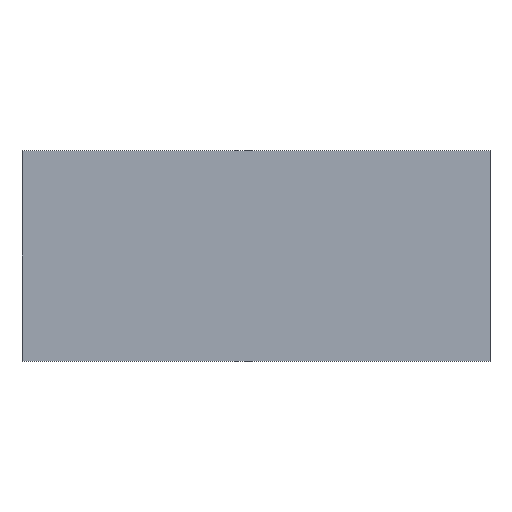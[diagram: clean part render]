
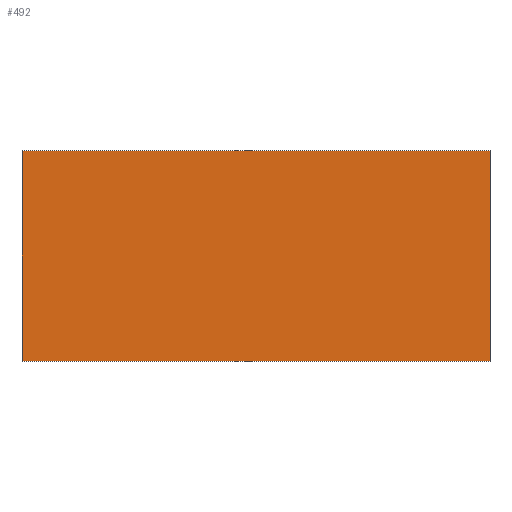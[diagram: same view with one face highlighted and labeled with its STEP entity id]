
A CAD part, front view. The second image highlights one B-rep face of the part: STEP entity #492.
In plain terms, the highlighted planar face has unit normal (0, -1, 0).
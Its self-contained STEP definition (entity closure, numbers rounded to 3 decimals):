
#21 = EDGE_CURVE('',#22,#24,#26,.T.);
#22 = VERTEX_POINT('',#23);
#23 = CARTESIAN_POINT('',(-61.5,0.,32.075));
#24 = VERTEX_POINT('',#25);
#25 = CARTESIAN_POINT('',(-61.5,0.,87.425));
#26 = SURFACE_CURVE('',#27,(#31,#43),.PCURVE_S1.);
#27 = LINE('',#28,#29);
#28 = CARTESIAN_POINT('',(-61.5,0.,32.075));
#29 = VECTOR('',#30,1.);
#30 = DIRECTION('',(0.,0.,1.));
#31 = PCURVE('',#32,#37);
#32 = PLANE('',#33);
#33 = AXIS2_PLACEMENT_3D('',#34,#35,#36);
#34 = CARTESIAN_POINT('',(-61.5,0.,32.075));
#35 = DIRECTION('',(1.,0.,0.));
#36 = DIRECTION('',(0.,0.,1.));
#37 = DEFINITIONAL_REPRESENTATION('',(#38),#42);
#38 = LINE('',#39,#40);
#39 = CARTESIAN_POINT('',(0.,0.));
#40 = VECTOR('',#41,1.);
#41 = DIRECTION('',(1.,0.));
#42 = ( GEOMETRIC_REPRESENTATION_CONTEXT(2) 
PARAMETRIC_REPRESENTATION_CONTEXT() REPRESENTATION_CONTEXT('2D SPACE',''
  ) );
#43 = PCURVE('',#44,#49);
#44 = PLANE('',#45);
#45 = AXIS2_PLACEMENT_3D('',#46,#47,#48);
#46 = CARTESIAN_POINT('',(-61.5,0.,32.075));
#47 = DIRECTION('',(0.,1.,0.));
#48 = DIRECTION('',(0.,0.,1.));
#49 = DEFINITIONAL_REPRESENTATION('',(#50),#54);
#50 = LINE('',#51,#52);
#51 = CARTESIAN_POINT('',(0.,0.));
#52 = VECTOR('',#53,1.);
#53 = DIRECTION('',(1.,0.));
#54 = ( GEOMETRIC_REPRESENTATION_CONTEXT(2) 
PARAMETRIC_REPRESENTATION_CONTEXT() REPRESENTATION_CONTEXT('2D SPACE',''
  ) );
#72 = PLANE('',#73);
#73 = AXIS2_PLACEMENT_3D('',#74,#75,#76);
#74 = CARTESIAN_POINT('',(-61.5,0.,32.075));
#75 = DIRECTION('',(0.,0.,1.));
#76 = DIRECTION('',(1.,0.,0.));
#182 = PLANE('',#183);
#183 = AXIS2_PLACEMENT_3D('',#184,#185,#186);
#184 = CARTESIAN_POINT('',(-61.5,0.,87.425));
#185 = DIRECTION('',(0.,0.,1.));
#186 = DIRECTION('',(1.,0.,0.));
#198 = EDGE_CURVE('',#24,#199,#201,.T.);
#199 = VERTEX_POINT('',#200);
#200 = CARTESIAN_POINT('',(61.5,0.,87.425));
#201 = SURFACE_CURVE('',#202,(#206,#213),.PCURVE_S1.);
#202 = LINE('',#203,#204);
#203 = CARTESIAN_POINT('',(-61.5,0.,87.425));
#204 = VECTOR('',#205,1.);
#205 = DIRECTION('',(1.,0.,0.));
#206 = PCURVE('',#182,#207);
#207 = DEFINITIONAL_REPRESENTATION('',(#208),#212);
#208 = LINE('',#209,#210);
#209 = CARTESIAN_POINT('',(0.,0.));
#210 = VECTOR('',#211,1.);
#211 = DIRECTION('',(1.,0.));
#212 = ( GEOMETRIC_REPRESENTATION_CONTEXT(2) 
PARAMETRIC_REPRESENTATION_CONTEXT() REPRESENTATION_CONTEXT('2D SPACE',''
  ) );
#213 = PCURVE('',#44,#214);
#214 = DEFINITIONAL_REPRESENTATION('',(#215),#219);
#215 = LINE('',#216,#217);
#216 = CARTESIAN_POINT('',(55.35,0.));
#217 = VECTOR('',#218,1.);
#218 = DIRECTION('',(0.,1.));
#219 = ( GEOMETRIC_REPRESENTATION_CONTEXT(2) 
PARAMETRIC_REPRESENTATION_CONTEXT() REPRESENTATION_CONTEXT('2D SPACE',''
  ) );
#237 = PLANE('',#238);
#238 = AXIS2_PLACEMENT_3D('',#239,#240,#241);
#239 = CARTESIAN_POINT('',(61.5,0.,32.075));
#240 = DIRECTION('',(1.,0.,0.));
#241 = DIRECTION('',(0.,0.,1.));
#273 = EDGE_CURVE('',#274,#199,#276,.T.);
#274 = VERTEX_POINT('',#275);
#275 = CARTESIAN_POINT('',(61.5,0.,32.075));
#276 = SURFACE_CURVE('',#277,(#281,#288),.PCURVE_S1.);
#277 = LINE('',#278,#279);
#278 = CARTESIAN_POINT('',(61.5,0.,32.075));
#279 = VECTOR('',#280,1.);
#280 = DIRECTION('',(0.,0.,1.));
#281 = PCURVE('',#237,#282);
#282 = DEFINITIONAL_REPRESENTATION('',(#283),#287);
#283 = LINE('',#284,#285);
#284 = CARTESIAN_POINT('',(0.,0.));
#285 = VECTOR('',#286,1.);
#286 = DIRECTION('',(1.,0.));
#287 = ( GEOMETRIC_REPRESENTATION_CONTEXT(2) 
PARAMETRIC_REPRESENTATION_CONTEXT() REPRESENTATION_CONTEXT('2D SPACE',''
  ) );
#288 = PCURVE('',#44,#289);
#289 = DEFINITIONAL_REPRESENTATION('',(#290),#294);
#290 = LINE('',#291,#292);
#291 = CARTESIAN_POINT('',(0.,123.));
#292 = VECTOR('',#293,1.);
#293 = DIRECTION('',(1.,0.));
#294 = ( GEOMETRIC_REPRESENTATION_CONTEXT(2) 
PARAMETRIC_REPRESENTATION_CONTEXT() REPRESENTATION_CONTEXT('2D SPACE',''
  ) );
#469 = EDGE_CURVE('',#22,#274,#470,.T.);
#470 = SURFACE_CURVE('',#471,(#475,#482),.PCURVE_S1.);
#471 = LINE('',#472,#473);
#472 = CARTESIAN_POINT('',(-61.5,0.,32.075));
#473 = VECTOR('',#474,1.);
#474 = DIRECTION('',(1.,0.,0.));
#475 = PCURVE('',#72,#476);
#476 = DEFINITIONAL_REPRESENTATION('',(#477),#481);
#477 = LINE('',#478,#479);
#478 = CARTESIAN_POINT('',(0.,0.));
#479 = VECTOR('',#480,1.);
#480 = DIRECTION('',(1.,0.));
#481 = ( GEOMETRIC_REPRESENTATION_CONTEXT(2) 
PARAMETRIC_REPRESENTATION_CONTEXT() REPRESENTATION_CONTEXT('2D SPACE',''
  ) );
#482 = PCURVE('',#44,#483);
#483 = DEFINITIONAL_REPRESENTATION('',(#484),#488);
#484 = LINE('',#485,#486);
#485 = CARTESIAN_POINT('',(0.,0.));
#486 = VECTOR('',#487,1.);
#487 = DIRECTION('',(0.,1.));
#488 = ( GEOMETRIC_REPRESENTATION_CONTEXT(2) 
PARAMETRIC_REPRESENTATION_CONTEXT() REPRESENTATION_CONTEXT('2D SPACE',''
  ) );
#492 = ADVANCED_FACE('',(#493),#44,.F.);
#493 = FACE_BOUND('',#494,.F.);
#494 = EDGE_LOOP('',(#495,#496,#497,#498));
#495 = ORIENTED_EDGE('',*,*,#469,.F.);
#496 = ORIENTED_EDGE('',*,*,#21,.T.);
#497 = ORIENTED_EDGE('',*,*,#198,.T.);
#498 = ORIENTED_EDGE('',*,*,#273,.F.);
